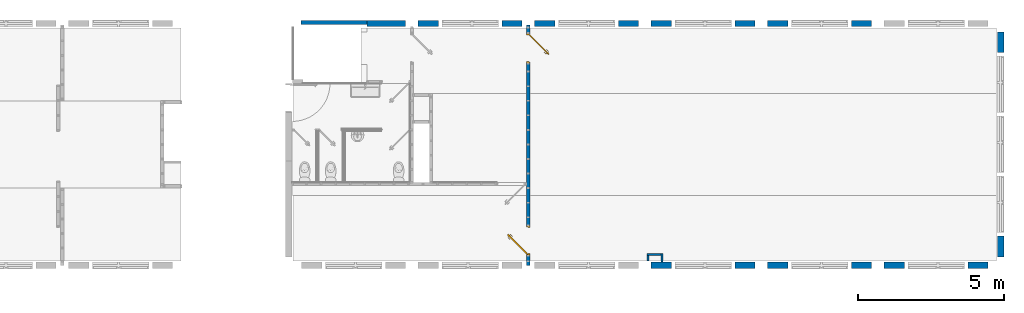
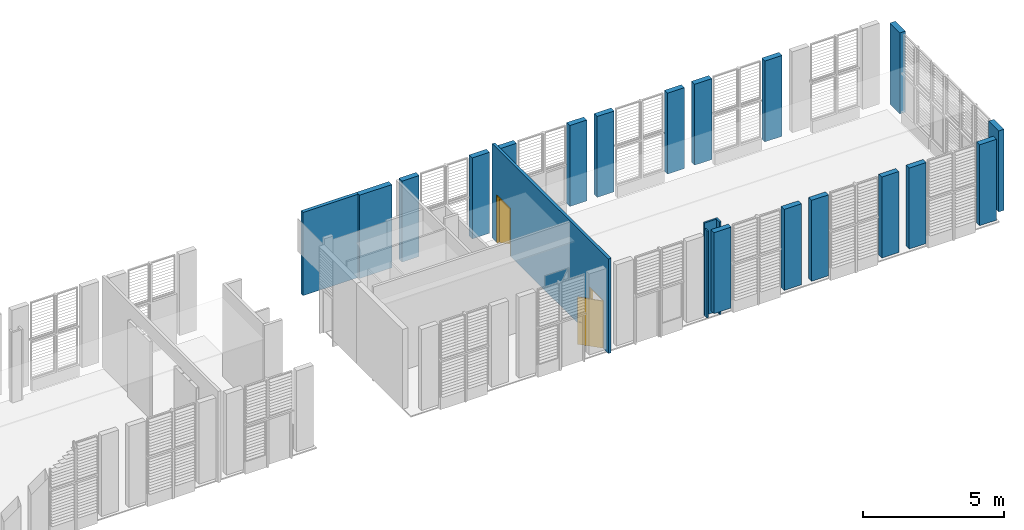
# One storey, part 7 of 8: 22 walls, 2 doors, 2 openings.
"""IFC2X3 building model written with IfcOpenShell, lengths in metres."""

from ifc_helpers import new_model, entity, si_unit, converted_unit, derived_unit, direction, frame, frame_2d, origin, place, context, subcontext, project, spatial, polyline, rectangle, extrude, clip, bounded_halfspace, faceted_brep, source, transform, mapped, material, layer, layer_set, layer_usage, type_object, type_shapes, element, fill, save


model = new_model("IFC2X3")

# Units and contexts
model_context = context("Model", 3, precision=1e-05, world=origin(), true_north=direction((6.12303176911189e-17, 1.0)))
body_context = subcontext(model_context, "Body", "Model", "MODEL_VIEW")
ifc_project = project(units=[si_unit("LENGTHUNIT", "METRE"), si_unit("AREAUNIT", "SQUARE_METRE"), si_unit("VOLUMEUNIT", "CUBIC_METRE"), converted_unit("PLANEANGLEUNIT", "DEGREE", entity("IfcRatioMeasure", 0.0174532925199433), si_unit("PLANEANGLEUNIT", "RADIAN"), dimensions=[0, 0, 0, 0, 0, 0, 0]), si_unit("MASSUNIT", "GRAM", prefix="KILO"), derived_unit("MASSDENSITYUNIT", [(si_unit("MASSUNIT", "GRAM", prefix="KILO"), 1), (si_unit("LENGTHUNIT", "METRE"), -3)]), si_unit("TIMEUNIT", "SECOND"), si_unit("FREQUENCYUNIT", "HERTZ"), si_unit("THERMODYNAMICTEMPERATUREUNIT", "DEGREE_CELSIUS"), derived_unit("THERMALTRANSMITTANCEUNIT", [(si_unit("MASSUNIT", "GRAM", prefix="KILO"), 1), (si_unit("THERMODYNAMICTEMPERATUREUNIT", "KELVIN"), -1), (si_unit("TIMEUNIT", "SECOND"), -3)]), derived_unit("VOLUMETRICFLOWRATEUNIT", [(si_unit("LENGTHUNIT", "METRE"), 3), (si_unit("TIMEUNIT", "SECOND"), -1)]), si_unit("ELECTRICCURRENTUNIT", "AMPERE"), si_unit("ELECTRICVOLTAGEUNIT", "VOLT"), si_unit("POWERUNIT", "WATT"), si_unit("FORCEUNIT", "NEWTON", prefix="KILO"), si_unit("ILLUMINANCEUNIT", "LUX"), si_unit("LUMINOUSFLUXUNIT", "LUMEN"), si_unit("LUMINOUSINTENSITYUNIT", "CANDELA"), derived_unit("USERDEFINED", [(si_unit("MASSUNIT", "GRAM", prefix="KILO"), -1), (si_unit("LENGTHUNIT", "METRE"), -2), (si_unit("TIMEUNIT", "SECOND"), 3), (si_unit("LUMINOUSFLUXUNIT", "LUMEN"), 1)]), derived_unit("LINEARVELOCITYUNIT", [(si_unit("LENGTHUNIT", "METRE"), 1), (si_unit("TIMEUNIT", "SECOND"), -1)]), si_unit("PRESSUREUNIT", "PASCAL"), derived_unit("USERDEFINED", [(si_unit("LENGTHUNIT", "METRE"), -2), (si_unit("MASSUNIT", "GRAM", prefix="KILO"), 1), (si_unit("TIMEUNIT", "SECOND"), -2)])], contexts=[model_context])

# Site, building, storey
site_placement = place(None, origin())
site = spatial("IfcSite", under=ifc_project, at=site_placement, Name="Surface", CompositionType="ELEMENT")
building_placement = place(site_placement, origin())
building = spatial("IfcBuilding", under=site, at=building_placement, Name="ExPREF", CompositionType="ELEMENT")
storey_placement = place(building_placement, origin())
storey = spatial("IfcBuildingStorey", under=building, at=storey_placement, Name="RDC", CompositionType="ELEMENT", Elevation=-6.89719131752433e-12)

# Wall, openings, doors
ifc_material_1 = material(Name="AA-mur cloison finition")
ifc_layer_1 = layer(ifc_material_1, 0.018)
ifc_material_2 = material(Name="AA-isolant plancher")
ifc_layer_2 = layer(ifc_material_2, 0.08)
ifc_layer_3 = layer(ifc_material_1, 0.018)
ifc_layer_set_1 = layer_set([ifc_layer_1, ifc_layer_2, ifc_layer_3], Name="Mur de base:A-cloison CP 11.6 cm")
ifc_layer_usage_1 = layer_usage(ifc_layer_set_1, "AXIS2", "NEGATIVE", 0.058)
wall_type_1 = type_object("IfcWallType", Name="Mur de base:A-cloison CP 11.6 cm", PredefinedType="STANDARD", material=ifc_layer_set_1)
wall_1_placement = place(storey_placement, frame((53.4897436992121, -185.106488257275, 0.0), z_axis=(0.0, 0.0, 1.0), x_axis=(0.0, -1.0, 0.0)))
wall_1 = element("IfcWallStandardCase", 1, at=wall_1_placement, inside=storey, type_object=wall_type_1, material=ifc_layer_usage_1, Name="Mur de base:A-cloison CP 11.6 cm", ObjectType="Mur de base:A-cloison CP 11.6 cm", context=body_context, shape_type="SweptSolid", body=[
    extrude(rectangle(XDim=8.25316304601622, YDim=0.116000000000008, at=frame_2d((4.12658152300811, -4.85722573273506e-17), x_axis=(-1.0, 0.0))), origin(), (0.0, 0.0, 1.0), 4.09500000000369),
])
opening_1_placement = place(wall_1_placement, frame((7.90316304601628, 0.0580000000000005, 0.0)))
opening_1 = element("IfcOpeningElement", 2, at=opening_1_placement, cuts=wall_1, Name="Porte intérieur bois:PP (0.93m x 2.04m):1", ObjectType="Opening", context=body_context, shape_type="SweptSolid", body=[
    extrude(rectangle(XDim=2.075, YDim=0.999999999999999, at=frame_2d((1.0375, 0.5), x_axis=(1.0, 0.0))), frame((0.0, 0.0, 0.0), z_axis=(0.0, -1.0, 0.0), x_axis=(0.0, 0.0, 1.0)), (0.0, 0.0, 1.0), 0.116),
])
opening_2_placement = place(wall_1_placement, frame((0.299999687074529, -0.0580000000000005, 0.0)))
opening_2 = element("IfcOpeningElement", 3, at=opening_2_placement, cuts=wall_1, Name="Porte intérieur bois:PP (0.93m x 2.04m):1", ObjectType="Opening", context=body_context, shape_type="SweptSolid", body=[
    extrude(rectangle(XDim=2.075, YDim=1.0, at=frame_2d((1.0375, 0.5), x_axis=(1.0, 0.0))), frame((0.0, 0.0, 0.0), z_axis=(0.0, 1.0, 0.0), x_axis=(0.0, 0.0, 1.0)), (0.0, 0.0, 1.0), 0.116),
])
ifc_material_3 = material(Name="AA-Blanc satiné")
door_style = type_object("IfcDoorStyle", Name="PP (0.93m x 2.04m)", ConstructionType="NOTDEFINED", OperationType="SINGLE_SWING_LEFT", ParameterTakesPrecedence=False, Sizeable=False, material=ifc_material_3)
shared_shape = source(origin(), body_context, "Body", "Brep", [
    faceted_brep([(0.316565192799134, -0.584795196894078, 1.00778044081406), (0.313754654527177, -0.587605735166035, 1.007), (0.31375465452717, -0.587605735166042, 0.992999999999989), (0.316565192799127, -0.584795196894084, 0.99221955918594), (0.319429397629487, -0.581930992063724, 0.992219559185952), (0.32223993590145, -0.579120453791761, 0.993000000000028), (0.322239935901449, -0.579120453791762, 1.007), (0.319429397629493, -0.581930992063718, 1.00778044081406), (0.306340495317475, -0.563221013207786, 0.993000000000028), (0.306340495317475, -0.563221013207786, 1.007), (0.302365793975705, -0.56486738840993, 1.00778044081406), (0.302365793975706, -0.545331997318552, 1.00778044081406), (0.298315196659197, -0.543654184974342, 1.00778044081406), (0.298315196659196, -0.56654520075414, 1.00778044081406), (0.294340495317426, -0.568191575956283, 1.007), (0.294340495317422, -0.568191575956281, 0.992999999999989), (0.298315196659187, -0.566545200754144, 0.99221955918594), (0.298315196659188, -0.543654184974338, 0.99221955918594), (0.302365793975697, -0.545331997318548, 0.992219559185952), (0.302365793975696, -0.564867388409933, 0.992219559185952), (0.306340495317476, -0.546978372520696, 0.993000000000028), (0.306340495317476, -0.546978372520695, 1.007), (0.294340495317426, -0.542007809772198, 1.007), (0.294340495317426, -0.542007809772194, 0.992999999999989), (0.36471958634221, -0.488599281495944, 0.993000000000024), (0.361909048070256, -0.485788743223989, 0.992219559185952), (0.359044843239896, -0.48292453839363, 0.99221955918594), (0.356234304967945, -0.480114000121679, 0.992999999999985), (0.356234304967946, -0.480114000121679, 1.007), (0.359044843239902, -0.482924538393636, 1.00778044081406), (0.361909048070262, -0.485788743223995, 1.00778044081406), (0.364719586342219, -0.488599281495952, 1.007), (0.335530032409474, -0.517788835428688, 0.993000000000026), (0.335530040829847, -0.517788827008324, 1.007), (0.330705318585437, -0.51412826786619, 1.0078786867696), (0.322575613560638, -0.513772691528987, 1.007), (0.322575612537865, -0.513772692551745, 0.992999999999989), (0.330705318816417, -0.514128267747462, 0.992121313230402)], [[[0, 1, 2, 3, 4, 5, 6, 7]], [[6, 5, 8, 9]], [[9, 10, 7, 6]], [[10, 11, 12, 13, 0, 7]], [[13, 14, 1, 0]], [[2, 1, 14, 15]], [[15, 16, 3, 2]], [[16, 17, 18, 19, 4, 3]], [[19, 8, 5, 4]], [[9, 8, 20, 21]], [[21, 11, 10, 9]], [[12, 22, 14, 13]], [[15, 14, 22, 23]], [[23, 17, 16, 15]], [[18, 20, 8, 19]], [[24, 25, 26, 27, 28, 29, 30, 31]], [[21, 20, 32, 24, 31, 33]], [[33, 30, 34]], [[35, 34, 29]], [[21, 33, 11]], [[33, 31, 30]], [[28, 35, 29]], [[22, 12, 35]], [[35, 12, 34]], [[12, 11, 34]], [[11, 33, 34]], [[29, 34, 30]], [[22, 35, 28, 27, 36, 23]], [[36, 26, 37]], [[27, 26, 36]], [[17, 23, 36]], [[37, 32, 18]], [[20, 18, 32]], [[32, 25, 24]], [[26, 25, 37]], [[25, 32, 37]], [[17, 36, 37]], [[17, 37, 18]]]),
    faceted_brep([(0.351920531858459, -0.620150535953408, 1.00778044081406), (0.354784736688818, -0.617286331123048, 1.00778044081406), (0.357595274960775, -0.614475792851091, 1.00699999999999), (0.357595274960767, -0.614475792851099, 0.993000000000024), (0.354784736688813, -0.617286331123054, 0.992219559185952), (0.351920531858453, -0.620150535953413, 0.99221955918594), (0.349109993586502, -0.622961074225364, 0.992999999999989), (0.349109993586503, -0.622961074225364, 1.007), (0.368662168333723, -0.642513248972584, 1.007), (0.370308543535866, -0.638538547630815, 1.00778044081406), (0.3930050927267, -0.638538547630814, 1.00778044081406), (0.391327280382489, -0.634487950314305, 1.00778044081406), (0.371986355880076, -0.634487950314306, 1.00778044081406), (0.373632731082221, -0.630513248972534, 1.007), (0.373632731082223, -0.630513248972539, 0.993000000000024), (0.371986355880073, -0.634487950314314, 0.992219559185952), (0.391327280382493, -0.634487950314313, 0.992219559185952), (0.393005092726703, -0.638538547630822, 0.99221955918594), (0.370308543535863, -0.638538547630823, 0.99221955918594), (0.368662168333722, -0.642513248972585, 0.992999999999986), (0.394651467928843, -0.642513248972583, 1.007), (0.389680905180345, -0.630513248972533, 1.007), (0.38968090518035, -0.630513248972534, 0.993000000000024), (0.394651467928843, -0.642513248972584, 0.992999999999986), (0.456623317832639, -0.580541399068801, 0.992999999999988), (0.453812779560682, -0.577730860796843, 0.99221955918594), (0.450948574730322, -0.574866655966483, 0.992219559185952), (0.448138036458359, -0.57205611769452, 0.993000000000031), (0.44813803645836, -0.572056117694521, 1.007), (0.450948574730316, -0.574866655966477, 1.00778044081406), (0.453812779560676, -0.577730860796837, 1.00778044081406), (0.456623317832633, -0.580541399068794, 1.00699999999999), (0.422886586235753, -0.614278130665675, 1.007), (0.422570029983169, -0.606109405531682, 1.0078786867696), (0.418909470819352, -0.601284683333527, 1.007), (0.418909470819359, -0.601284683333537, 0.993000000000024), (0.422570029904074, -0.606109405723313, 0.992121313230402), (0.422886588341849, -0.614278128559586, 0.992999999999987)], [[[0, 1, 2, 3, 4, 5, 6, 7]], [[8, 9, 0, 7]], [[9, 10, 11, 12, 1, 0]], [[12, 13, 2, 1]], [[3, 2, 13, 14]], [[14, 15, 4, 3]], [[15, 16, 17, 18, 5, 4]], [[18, 19, 6, 5]], [[7, 6, 19, 8]], [[20, 10, 9, 8]], [[11, 21, 13, 12]], [[14, 13, 21, 22]], [[22, 16, 15, 14]], [[17, 23, 19, 18]], [[8, 19, 23, 20]], [[24, 25, 26, 27, 28, 29, 30, 31]], [[32, 30, 33]], [[31, 30, 32]], [[10, 20, 32]], [[33, 34, 11]], [[21, 11, 34]], [[34, 29, 28]], [[30, 29, 33]], [[29, 34, 33]], [[10, 32, 33]], [[10, 33, 11]], [[22, 21, 34, 28, 27, 35]], [[35, 26, 36]], [[37, 36, 25]], [[22, 35, 16]], [[35, 27, 26]], [[24, 37, 25]], [[23, 17, 37]], [[37, 17, 36]], [[17, 16, 36]], [[16, 35, 36]], [[25, 36, 26]], [[20, 23, 37, 24, 31, 32]]]),
    faceted_brep([(0.328853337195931, -0.579578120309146, 0.866003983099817), (0.335674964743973, -0.572756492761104, 0.870000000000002), (0.335674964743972, -0.572756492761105, 1.08), (0.32885333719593, -0.579578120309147, 1.08399601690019), (0.321532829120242, -0.586898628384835, 1.08535898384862), (0.314212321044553, -0.594219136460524, 1.08399601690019), (0.307390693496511, -0.601040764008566, 1.08), (0.307390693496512, -0.601040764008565, 0.870000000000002), (0.314212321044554, -0.594219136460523, 0.866003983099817), (0.321532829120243, -0.586898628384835, 0.86464101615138), (0.325317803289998, -0.576042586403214, 1.08399601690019), (0.33213943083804, -0.569220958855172, 1.08), (0.332139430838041, -0.569220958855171, 0.870000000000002), (0.325317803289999, -0.576042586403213, 0.866003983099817), (0.31799729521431, -0.583363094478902, 0.86464101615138), (0.310676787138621, -0.59068360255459, 0.866003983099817), (0.303855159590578, -0.597505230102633, 0.870000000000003), (0.303855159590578, -0.597505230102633, 1.08), (0.31067678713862, -0.590683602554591, 1.08399601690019), (0.317997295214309, -0.583363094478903, 1.08535898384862)], [[[0, 1, 2, 3, 4, 5, 6, 7, 8, 9]], [[10, 11, 12, 13, 14, 15, 16, 17, 18, 19]], [[11, 10, 3, 2]], [[3, 10, 19, 4]], [[19, 18, 5, 4]], [[18, 17, 6, 5]], [[7, 6, 17, 16]], [[16, 15, 8, 7]], [[8, 15, 14, 9]], [[14, 13, 0, 9]], [[13, 12, 1, 0]], [[2, 1, 12, 11]]]),
    faceted_brep([(0.360673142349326, -0.61139792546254, 0.866003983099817), (0.367494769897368, -0.604576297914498, 0.870000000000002), (0.367494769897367, -0.604576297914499, 1.08), (0.360673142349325, -0.611397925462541, 1.08399601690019), (0.353352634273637, -0.61871843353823, 1.08535898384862), (0.346032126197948, -0.626038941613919, 1.08399601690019), (0.339210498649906, -0.632860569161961, 1.08), (0.339210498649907, -0.63286056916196, 0.870000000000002), (0.346032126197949, -0.626038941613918, 0.866003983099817), (0.353352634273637, -0.618718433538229, 0.86464101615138), (0.357137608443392, -0.607862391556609, 1.08399601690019), (0.363959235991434, -0.601040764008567, 1.08), (0.363959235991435, -0.601040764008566, 0.870000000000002), (0.357137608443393, -0.607862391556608, 0.866003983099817), (0.349817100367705, -0.615182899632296, 0.86464101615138), (0.342496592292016, -0.622503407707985, 0.866003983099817), (0.335674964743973, -0.629325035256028, 0.870000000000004), (0.335674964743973, -0.629325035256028, 1.08), (0.342496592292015, -0.622503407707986, 1.08399601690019), (0.349817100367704, -0.615182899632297, 1.08535898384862)], [[[0, 1, 2, 3, 4, 5, 6, 7, 8, 9]], [[10, 11, 12, 13, 14, 15, 16, 17, 18, 19]], [[16, 15, 8, 7]], [[8, 15, 14, 9]], [[14, 13, 0, 9]], [[13, 12, 1, 0]], [[2, 1, 12, 11]], [[11, 10, 3, 2]], [[3, 10, 19, 4]], [[19, 18, 5, 4]], [[18, 17, 6, 5]], [[7, 6, 17, 16]]]),
    faceted_brep([(0.279106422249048, -0.629325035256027, 2.04), (0.936715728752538, 0.0282842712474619, 2.04), (0.936715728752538, 0.0282842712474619, 0.0), (0.279106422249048, -0.629325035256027, 0.0), (0.30739069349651, -0.657609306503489, 2.04), (0.30739069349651, -0.657609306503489, 0.0), (0.965, 0.0, 0.0), (0.965, 0.0, 2.04)], [[[0, 1, 2, 3]], [[4, 5, 6, 7]], [[1, 0, 4, 7]], [[2, 1, 7, 6]], [[3, 2, 6, 5]], [[0, 3, 5, 4]]]),
    faceted_brep([(0.0, 0.0, 0.0), (0.0, 0.116000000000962, 0.0), (0.0499999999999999, 0.116000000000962, 0.0), (0.0499999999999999, 0.0400000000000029, 0.0), (0.0349999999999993, 0.0400000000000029, 0.0), (0.0349999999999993, 0.0, 0.0), (0.0, 0.0, 2.07500000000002), (0.0, 0.116000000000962, 2.07500000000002), (1.0, 0.116000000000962, 2.07500000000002), (1.0, 0.116000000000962, 0.0), (0.95, 0.116000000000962, 0.0), (0.95, 0.116000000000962, 2.025), (0.0500000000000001, 0.116000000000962, 2.025), (0.05, 0.0400000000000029, 2.025), (0.95, 0.0400000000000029, 2.025), (0.95, 0.0400000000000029, 0.0), (0.965, 0.0400000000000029, 0.0), (0.965, 0.0400000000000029, 2.04), (0.0349999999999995, 0.0400000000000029, 2.04), (0.0349999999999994, 0.0, 2.04), (0.965, 0.0, 2.04), (0.965, 0.0, 0.0), (1.0, 0.0, 0.0), (1.0, 0.0, 2.07500000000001)], [[[0, 1, 2, 3, 4, 5]], [[1, 0, 6, 7]], [[2, 1, 7, 8, 9, 10, 11, 12]], [[3, 2, 12, 13]], [[4, 3, 13, 14, 15, 16, 17, 18]], [[5, 4, 18, 19]], [[0, 5, 19, 20, 21, 22, 23, 6]], [[8, 23, 22, 9]], [[22, 21, 16, 15, 10, 9]], [[14, 11, 10, 15]], [[20, 17, 16, 21]], [[7, 6, 23, 8]], [[13, 12, 11, 14]], [[19, 18, 17, 20]]]),
])
type_shapes(door_style, [shared_shape])
door_1_placement = place(opening_2_placement, frame((1.0, 0.116, 0.0), z_axis=(0.0, 0.0, 1.0), x_axis=(-1.0, 0.0, 0.0)))
door_1 = element("IfcDoor", 4, at=door_1_placement, inside=storey, type_object=door_style, material=ifc_material_3, Name="Porte intérieur bois:PP (0.93m x 2.04m)", ObjectType="PP (0.93m x 2.04m)", OverallHeight=2.075, OverallWidth=1.00000000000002, context=body_context, shape_type="MappedRepresentation", body=[
    mapped(shared_shape, transform((0.0, 0.0, 0.0), scale=1.0)),
])
fill(opening_2, door_1)
door_2_placement = place(opening_1_placement, frame((-1.0, -0.116000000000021, 0.0)))
door_2 = element("IfcDoor", 5, at=door_2_placement, inside=storey, type_object=door_style, material=ifc_material_3, Name="Porte intérieur bois:PP (0.93m x 2.04m)", ObjectType="PP (0.93m x 2.04m)", OverallHeight=2.075, OverallWidth=1.00000000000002, context=body_context, shape_type="MappedRepresentation", body=[
    mapped(shared_shape, transform((0.0, 0.0, 0.0), scale=1.0)),
])
fill(opening_1, door_2)

# Walls
ifc_material_4 = material(Name="AA-fermacell peint")
ifc_layer_4 = layer(ifc_material_4, 0.0125)
ifc_layer_5 = layer(ifc_material_2, 0.045)
ifc_layer_6 = layer(ifc_material_4, 0.0125)
ifc_layer_set_2 = layer_set([ifc_layer_4, ifc_layer_5, ifc_layer_6], Name="Mur de base:Générique - Int. 70 mm")
ifc_layer_usage_2 = layer_usage(ifc_layer_set_2, "AXIS2", "NEGATIVE", 0.035)
wall_type_2 = type_object("IfcWallType", Name="Mur de base:Générique - Int. 70 mm", PredefinedType="STANDARD", material=ifc_layer_set_2)
wall_2_placement = place(storey_placement, frame((58.0847436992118, -192.959651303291, 0.0), z_axis=(0.0, 0.0, 1.0), x_axis=(0.0, -1.0, 0.0)))
element("IfcWallStandardCase", 6, at=wall_2_placement, inside=storey, type_object=wall_type_2, material=ifc_layer_usage_2, Name="Mur de base:Générique - Int. 70 mm", ObjectType="Mur de base:Générique - Int. 70 mm", context=body_context, shape_type="SweptSolid", body=[
    extrude(rectangle(XDim=0.289999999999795, YDim=0.0700000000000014, at=frame_2d((0.144999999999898, 0.0), x_axis=(-1.0, 0.0))), origin(), (0.0, 0.0, 1.0), 4.0100000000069),
])
ifc_layer_usage_3 = layer_usage(ifc_layer_set_2, "AXIS2", "NEGATIVE", 0.035)
wall_3_placement = place(storey_placement, frame((57.5597436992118, -192.994651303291, 0.0)))
element("IfcWallStandardCase", 7, at=wall_3_placement, inside=storey, type_object=wall_type_2, material=ifc_layer_usage_3, Name="Mur de base:Générique - Int. 70 mm", ObjectType="Mur de base:Générique - Int. 70 mm", context=body_context, shape_type="SweptSolid", body=[
    extrude(rectangle(XDim=0.490000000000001, YDim=0.0700000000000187, at=frame_2d((0.245000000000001, 0.0), x_axis=(-1.0, 0.0))), origin(), (0.0, 0.0, 1.0), 4.0100000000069),
])
ifc_layer_usage_4 = layer_usage(ifc_layer_set_2, "AXIS2", "POSITIVE", -0.035)
wall_4_placement = place(storey_placement, frame((57.5947436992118, -193.029651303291, 0.0), z_axis=(0.0, 0.0, 1.0), x_axis=(0.0, -1.0, 0.0)))
element("IfcWallStandardCase", 8, at=wall_4_placement, inside=storey, type_object=wall_type_2, material=ifc_layer_usage_4, Name="Mur de base:Générique - Int. 70 mm", ObjectType="Mur de base:Générique - Int. 70 mm", context=body_context, shape_type="SweptSolid", body=[
    extrude(rectangle(XDim=0.180000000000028, YDim=0.0700000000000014, at=frame_2d((0.0900000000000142, 0.0), x_axis=(-1.0, 0.0))), origin(), (0.0, 0.0, 1.0), 3.7600000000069),
])
ifc_material_5 = material(Name="AA-BTC")
ifc_layer_7 = layer(ifc_material_5, 0.22)
ifc_layer_set_3 = layer_set([ifc_layer_7], Name="Mur de base:A-prémur BTC")
ifc_layer_usage_5 = layer_usage(ifc_layer_set_3, "AXIS2", "POSITIVE", -0.11)
wall_type_3 = type_object("IfcWallType", Name="Mur de base:A-prémur BTC", PredefinedType="STANDARD", material=ifc_layer_set_3)
wall_5_placement = place(storey_placement, frame((61.2797436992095, -193.359651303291, 0.300000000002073), z_axis=(0.0, 0.0, 1.0), x_axis=(-1.0, 0.0, 0.0)))
element("IfcWallStandardCase", 9, at=wall_5_placement, inside=storey, type_object=wall_type_3, material=ifc_layer_usage_5, Name="Mur de base:A-prémur BTC", ObjectType="Mur de base:A-prémur BTC", context=body_context, shape_type="SweptSolid", body=[
    extrude(rectangle(XDim=0.699999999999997, YDim=0.220000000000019, at=frame_2d((0.349999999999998, 0.0), x_axis=(-1.0, 0.0))), origin(), (0.0, 0.0, 1.0), 3.51000000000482),
])
ifc_layer_usage_6 = layer_usage(ifc_layer_set_3, "AXIS2", "POSITIVE", -0.11)
wall_6_placement = place(storey_placement, frame((65.2797436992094, -193.359651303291, 0.300000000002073), z_axis=(0.0, 0.0, 1.0), x_axis=(-1.0, 0.0, 0.0)))
element("IfcWallStandardCase", 10, at=wall_6_placement, inside=storey, type_object=wall_type_3, material=ifc_layer_usage_6, Name="Mur de base:A-prémur BTC", ObjectType="Mur de base:A-prémur BTC", context=body_context, shape_type="SweptSolid", body=[
    extrude(rectangle(XDim=0.699999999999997, YDim=0.220000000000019, at=frame_2d((0.349999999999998, 0.0), x_axis=(-1.0, 0.0))), origin(), (0.0, 0.0, 1.0), 3.51000000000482),
])
ifc_layer_usage_7 = layer_usage(ifc_layer_set_3, "AXIS2", "POSITIVE", -0.11)
wall_7_placement = place(storey_placement, frame((69.2797436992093, -193.359651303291, 0.300000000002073), z_axis=(0.0, 0.0, 1.0), x_axis=(-1.0, 0.0, 0.0)))
element("IfcWallStandardCase", 11, at=wall_7_placement, inside=storey, type_object=wall_type_3, material=ifc_layer_usage_7, Name="Mur de base:A-prémur BTC", ObjectType="Mur de base:A-prémur BTC", context=body_context, shape_type="SweptSolid", body=[
    extrude(rectangle(XDim=0.699999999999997, YDim=0.220000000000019, at=frame_2d((0.349999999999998, 0.0), x_axis=(-1.0, 0.0))), origin(), (0.0, 0.0, 1.0), 3.51000000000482),
])
ifc_layer_usage_8 = layer_usage(ifc_layer_set_3, "AXIS2", "NEGATIVE", 0.11)
wall_8_placement = place(storey_placement, frame((57.2797436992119, -185.056487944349, 0.300000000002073), z_axis=(0.0, 0.0, 1.0), x_axis=(-1.0, 0.0, 0.0)))
element("IfcWallStandardCase", 12, at=wall_8_placement, inside=storey, type_object=wall_type_3, material=ifc_layer_usage_8, Name="Mur de base:A-prémur BTC", ObjectType="Mur de base:A-prémur BTC", context=body_context, shape_type="SweptSolid", body=[
    extrude(rectangle(XDim=0.699999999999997, YDim=0.220000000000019, at=frame_2d((0.349999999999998, -2.13024042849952e-15), x_axis=(-1.0, 0.0))), origin(), (0.0, 0.0, 1.0), 3.51000000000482),
])
ifc_layer_usage_9 = layer_usage(ifc_layer_set_3, "AXIS2", "NEGATIVE", 0.11)
wall_9_placement = place(storey_placement, frame((61.2797436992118, -185.056487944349, 0.300000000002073), z_axis=(0.0, 0.0, 1.0), x_axis=(-1.0, 0.0, 0.0)))
element("IfcWallStandardCase", 13, at=wall_9_placement, inside=storey, type_object=wall_type_3, material=ifc_layer_usage_9, Name="Mur de base:A-prémur BTC", ObjectType="Mur de base:A-prémur BTC", context=body_context, shape_type="SweptSolid", body=[
    extrude(rectangle(XDim=0.699999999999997, YDim=0.220000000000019, at=frame_2d((0.349999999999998, -2.13024042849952e-15), x_axis=(-1.0, 0.0))), origin(), (0.0, 0.0, 1.0), 3.51000000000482),
])
ifc_layer_usage_10 = layer_usage(ifc_layer_set_3, "AXIS2", "NEGATIVE", 0.11)
wall_10_placement = place(storey_placement, frame((65.2797436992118, -185.056487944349, 0.300000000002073), z_axis=(0.0, 0.0, 1.0), x_axis=(-1.0, 0.0, 0.0)))
element("IfcWallStandardCase", 14, at=wall_10_placement, inside=storey, type_object=wall_type_3, material=ifc_layer_usage_10, Name="Mur de base:A-prémur BTC", ObjectType="Mur de base:A-prémur BTC", context=body_context, shape_type="SweptSolid", body=[
    extrude(rectangle(XDim=0.699999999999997, YDim=0.220000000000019, at=frame_2d((0.349999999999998, -2.13024042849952e-15), x_axis=(-1.0, 0.0))), origin(), (0.0, 0.0, 1.0), 3.51000000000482),
])
ifc_layer_usage_11 = layer_usage(ifc_layer_set_3, "AXIS2", "NEGATIVE", 0.11)
wall_11_placement = place(storey_placement, frame((53.2797436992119, -185.056487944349, 0.300000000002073), z_axis=(0.0, 0.0, 1.0), x_axis=(-1.0, 0.0, 0.0)))
element("IfcWallStandardCase", 15, at=wall_11_placement, inside=storey, type_object=wall_type_3, material=ifc_layer_usage_11, Name="Mur de base:A-prémur BTC", ObjectType="Mur de base:A-prémur BTC", context=body_context, shape_type="SweptSolid", body=[
    extrude(rectangle(XDim=0.699999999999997, YDim=0.220000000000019, at=frame_2d((0.349999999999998, -2.13024042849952e-15), x_axis=(-1.0, 0.0))), origin(), (0.0, 0.0, 1.0), 3.51000000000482),
])
ifc_layer_usage_12 = layer_usage(ifc_layer_set_3, "AXIS2", "POSITIVE", -0.11)
wall_12_placement = place(storey_placement, frame((47.949743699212, -185.05648794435, 0.200000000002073)))
element("IfcWallStandardCase", 16, at=wall_12_placement, inside=storey, type_object=wall_type_3, material=ifc_layer_usage_12, Name="Mur de base:A-prémur BTC", ObjectType="Mur de base:A-prémur BTC", context=body_context, shape_type="Clipping", body=[
    clip(clip(extrude(rectangle(XDim=1.32999999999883, YDim=0.220000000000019, at=frame_2d((0.664999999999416, 0.0), x_axis=(-1.0, 0.0))), origin(), (0.0, 0.0, 1.0), 3.61000000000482), bounded_halfspace(frame((0.00238383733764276, -0.0299999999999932, 3.61000000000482), z_axis=(0.0, -1.0, 0.0), x_axis=(1.0, 0.0, 0.0)), True, frame((0.00238383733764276, -0.0299999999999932, 3.61000000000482), z_axis=(0.0, -1.0, 0.0), x_axis=(1.0, 0.0, 0.0)), polyline([(0.0, 0.0), (-0.00238383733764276, 0.0), (-0.00238383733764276, -3.61000000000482), (0.0, -3.61000000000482), (0.0, 0.0)]))), bounded_halfspace(frame((0.00238383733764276, -0.0299999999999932, 0.0), z_axis=(1.0, 0.0, 0.0), x_axis=(0.0, 1.0, 0.0)), True, frame((0.00238383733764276, -0.0299999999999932, 0.0), z_axis=(1.0, 0.0, 0.0), x_axis=(0.0, 1.0, 0.0)), polyline([(0.0, 0.0), (0.140000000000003, 0.0), (0.140000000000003, 3.61000000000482), (0.0, 3.61000000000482), (0.0, 0.0)]))),
])
ifc_layer_usage_13 = layer_usage(ifc_layer_set_3, "AXIS2", "NEGATIVE", 0.11)
wall_13_placement = place(storey_placement, frame((57.6997436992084, -193.359651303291, 0.300000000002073)))
element("IfcWallStandardCase", 17, at=wall_13_placement, inside=storey, type_object=wall_type_3, material=ifc_layer_usage_13, Name="Mur de base:A-prémur BTC", ObjectType="Mur de base:A-prémur BTC", context=body_context, shape_type="SweptSolid", body=[
    extrude(rectangle(XDim=0.699999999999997, YDim=0.220000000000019, at=frame_2d((0.349999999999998, 0.0), x_axis=(-1.0, 0.0))), origin(), (0.0, 0.0, 1.0), 3.51000000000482),
])
ifc_layer_usage_14 = layer_usage(ifc_layer_set_3, "AXIS2", "NEGATIVE", 0.11)
wall_14_placement = place(storey_placement, frame((61.6997436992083, -193.359651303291, 0.300000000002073)))
element("IfcWallStandardCase", 18, at=wall_14_placement, inside=storey, type_object=wall_type_3, material=ifc_layer_usage_14, Name="Mur de base:A-prémur BTC", ObjectType="Mur de base:A-prémur BTC", context=body_context, shape_type="SweptSolid", body=[
    extrude(rectangle(XDim=0.699999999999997, YDim=0.220000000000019, at=frame_2d((0.349999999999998, 0.0), x_axis=(-1.0, 0.0))), origin(), (0.0, 0.0, 1.0), 3.51000000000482),
])
ifc_layer_usage_15 = layer_usage(ifc_layer_set_3, "AXIS2", "NEGATIVE", 0.11)
wall_15_placement = place(storey_placement, frame((65.6997436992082, -193.359651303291, 0.300000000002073)))
element("IfcWallStandardCase", 19, at=wall_15_placement, inside=storey, type_object=wall_type_3, material=ifc_layer_usage_15, Name="Mur de base:A-prémur BTC", ObjectType="Mur de base:A-prémur BTC", context=body_context, shape_type="SweptSolid", body=[
    extrude(rectangle(XDim=0.699999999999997, YDim=0.220000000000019, at=frame_2d((0.349999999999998, 0.0), x_axis=(-1.0, 0.0))), origin(), (0.0, 0.0, 1.0), 3.51000000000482),
])
ifc_layer_usage_16 = layer_usage(ifc_layer_set_3, "AXIS2", "POSITIVE", -0.11)
wall_16_placement = place(storey_placement, frame((53.6997436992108, -185.056487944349, 0.300000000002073)))
element("IfcWallStandardCase", 20, at=wall_16_placement, inside=storey, type_object=wall_type_3, material=ifc_layer_usage_16, Name="Mur de base:A-prémur BTC", ObjectType="Mur de base:A-prémur BTC", context=body_context, shape_type="SweptSolid", body=[
    extrude(rectangle(XDim=0.699999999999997, YDim=0.220000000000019, at=frame_2d((0.349999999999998, -2.13024042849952e-15), x_axis=(-1.0, 0.0))), origin(), (0.0, 0.0, 1.0), 3.51000000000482),
])
ifc_layer_usage_17 = layer_usage(ifc_layer_set_3, "AXIS2", "POSITIVE", -0.11)
wall_17_placement = place(storey_placement, frame((57.6997436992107, -185.056487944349, 0.300000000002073)))
element("IfcWallStandardCase", 21, at=wall_17_placement, inside=storey, type_object=wall_type_3, material=ifc_layer_usage_17, Name="Mur de base:A-prémur BTC", ObjectType="Mur de base:A-prémur BTC", context=body_context, shape_type="SweptSolid", body=[
    extrude(rectangle(XDim=0.699999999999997, YDim=0.220000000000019, at=frame_2d((0.349999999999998, -2.13024042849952e-15), x_axis=(-1.0, 0.0))), origin(), (0.0, 0.0, 1.0), 3.51000000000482),
])
ifc_layer_usage_18 = layer_usage(ifc_layer_set_3, "AXIS2", "POSITIVE", -0.11)
wall_18_placement = place(storey_placement, frame((61.6997436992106, -185.056487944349, 0.300000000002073)))
element("IfcWallStandardCase", 22, at=wall_18_placement, inside=storey, type_object=wall_type_3, material=ifc_layer_usage_18, Name="Mur de base:A-prémur BTC", ObjectType="Mur de base:A-prémur BTC", context=body_context, shape_type="SweptSolid", body=[
    extrude(rectangle(XDim=0.699999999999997, YDim=0.220000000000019, at=frame_2d((0.349999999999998, -2.13024042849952e-15), x_axis=(-1.0, 0.0))), origin(), (0.0, 0.0, 1.0), 3.51000000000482),
])
ifc_layer_usage_19 = layer_usage(ifc_layer_set_3, "AXIS2", "POSITIVE", -0.11)
wall_19_placement = place(storey_placement, frame((49.6997436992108, -185.056487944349, 0.300000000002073)))
element("IfcWallStandardCase", 23, at=wall_19_placement, inside=storey, type_object=wall_type_3, material=ifc_layer_usage_19, Name="Mur de base:A-prémur BTC", ObjectType="Mur de base:A-prémur BTC", context=body_context, shape_type="SweptSolid", body=[
    extrude(rectangle(XDim=0.699999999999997, YDim=0.220000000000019, at=frame_2d((0.349999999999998, -2.13024042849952e-15), x_axis=(-1.0, 0.0))), origin(), (0.0, 0.0, 1.0), 3.51000000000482),
])
ifc_layer_usage_20 = layer_usage(ifc_layer_set_3, "AXIS2", "POSITIVE", -0.11)
wall_20_placement = place(storey_placement, frame((69.7097436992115, -185.346487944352, 0.300000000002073), z_axis=(0.0, 0.0, 1.0), x_axis=(0.0, -1.0, 0.0)))
element("IfcWallStandardCase", 24, at=wall_20_placement, inside=storey, type_object=wall_type_3, material=ifc_layer_usage_20, Name="Mur de base:A-prémur BTC", ObjectType="Mur de base:A-prémur BTC", context=body_context, shape_type="SweptSolid", body=[
    extrude(rectangle(XDim=0.711581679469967, YDim=0.220000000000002, at=frame_2d((0.355790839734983, -2.89351875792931e-15), x_axis=(-1.0, 0.0))), origin(), (0.0, 0.0, 1.0), 3.51000000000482),
])
ifc_layer_usage_21 = layer_usage(ifc_layer_set_3, "AXIS2", "NEGATIVE", 0.11)
wall_21_placement = place(storey_placement, frame((69.7097436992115, -193.069651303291, 0.300000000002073), z_axis=(0.0, 0.0, 1.0), x_axis=(0.0, 1.0, 0.0)))
element("IfcWallStandardCase", 25, at=wall_21_placement, inside=storey, type_object=wall_type_3, material=ifc_layer_usage_21, Name="Mur de base:A-prémur BTC", ObjectType="Mur de base:A-prémur BTC", context=body_context, shape_type="SweptSolid", body=[
    extrude(rectangle(XDim=0.711581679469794, YDim=0.220000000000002, at=frame_2d((0.355790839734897, 1.4363510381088e-15), x_axis=(-1.0, 0.0))), origin(), (0.0, 0.0, 1.0), 3.51000000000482),
])
ifc_layer_8 = layer(ifc_material_5, 0.14)
ifc_layer_set_4 = layer_set([ifc_layer_8], Name="Mur de base:A-mur BTC 14 cm")
ifc_layer_usage_22 = layer_usage(ifc_layer_set_4, "AXIS2", "POSITIVE", -0.07)
wall_type_4 = type_object("IfcWallType", Name="Mur de base:A-mur BTC 14 cm", PredefinedType="STANDARD", material=ifc_layer_set_4)
wall_22_placement = place(storey_placement, frame((45.6894303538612, -185.01648794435, 0.200000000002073)))
element("IfcWallStandardCase", 26, at=wall_22_placement, inside=storey, type_object=wall_type_4, material=ifc_layer_usage_22, Name="Mur de base:A-mur BTC 14 cm", ObjectType="Mur de base:A-mur BTC 14 cm", context=body_context, shape_type="SweptSolid", body=[
    extrude(rectangle(XDim=2.2626971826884, YDim=0.139999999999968, at=frame_2d((1.1313485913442, 0.0), x_axis=(-1.0, 0.0))), origin(), (0.0, 0.0, 1.0), 3.61000000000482),
])

save(model, "model.ifc")
